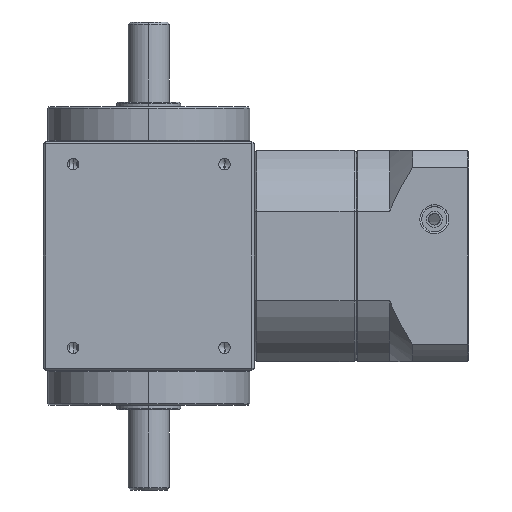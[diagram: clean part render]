
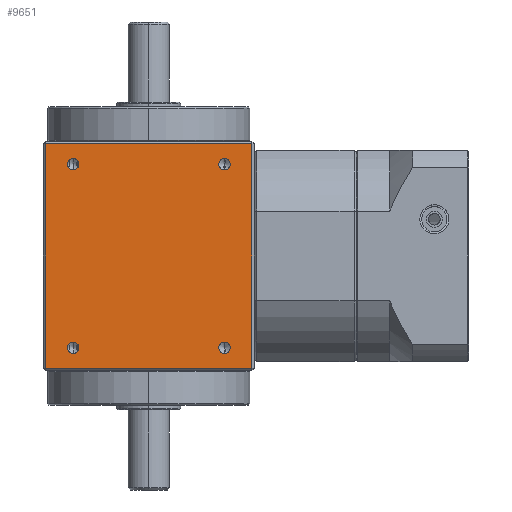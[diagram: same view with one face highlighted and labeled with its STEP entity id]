
A CAD part, left-side view. The second image highlights one B-rep face of the part: STEP entity #9651.
In plain terms, the highlighted planar face has unit normal (-1, 0, 0).
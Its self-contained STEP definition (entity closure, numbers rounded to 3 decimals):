
#675 = AXIS2_PLACEMENT_3D ( 'NONE', #5387, #5388, #5389 ) ;
#682 = AXIS2_PLACEMENT_3D ( 'NONE', #5476, #5477, #5478 ) ;
#690 = AXIS2_PLACEMENT_3D ( 'NONE', #5563, #5564, #5565 ) ;
#692 = AXIS2_PLACEMENT_3D ( 'NONE', #5578, #5579, #5580 ) ;
#725 = AXIS2_PLACEMENT_3D ( 'NONE', #5959, #5960, #5961 ) ;
#726 = AXIS2_PLACEMENT_3D ( 'NONE', #5962, #5963, #5964 ) ;
#727 = AXIS2_PLACEMENT_3D ( 'NONE', #5967, #5968, #5969 ) ;
#728 = AXIS2_PLACEMENT_3D ( 'NONE', #5972, #5973, #5974 ) ;
#1811 = EDGE_LOOP ( 'NONE', ( #8676, #8677 ) ) ;
#1814 = EDGE_LOOP ( 'NONE', ( #8678, #8679 ) ) ;
#1826 = EDGE_LOOP ( 'NONE', ( #8684, #8685, #8686, #8687 ) ) ;
#1858 = EDGE_LOOP ( 'NONE', ( #8682, #8683 ) ) ;
#1894 = EDGE_LOOP ( 'NONE', ( #8680, #8681 ) ) ;
#4160 = CIRCLE ( 'NONE', #675, 2.5 ) ;
#4195 = CIRCLE ( 'NONE', #682, 2.5 ) ;
#4234 = CIRCLE ( 'NONE', #690, 2.5 ) ;
#4250 = CIRCLE ( 'NONE', #692, 2.5 ) ;
#5128 = CARTESIAN_POINT ( 'NONE',  ( -46., -45., 49. ) ) ;
#5129 = CARTESIAN_POINT ( 'NONE',  ( -46., -45., -49. ) ) ;
#5131 = CARTESIAN_POINT ( 'NONE',  ( -46., 45., 49. ) ) ;
#5132 = CARTESIAN_POINT ( 'NONE',  ( -46., 45., -49. ) ) ;
#5165 = CARTESIAN_POINT ( 'NONE',  ( -46., -33., 37.5 ) ) ;
#5167 = CARTESIAN_POINT ( 'NONE',  ( -46., -33., 42.5 ) ) ;
#5202 = CARTESIAN_POINT ( 'NONE',  ( -46., -33., -42.5 ) ) ;
#5203 = CARTESIAN_POINT ( 'NONE',  ( -46., -33., -37.5 ) ) ;
#5221 = CARTESIAN_POINT ( 'NONE',  ( -46., 33., 42.5 ) ) ;
#5222 = CARTESIAN_POINT ( 'NONE',  ( -46., 33., 37.5 ) ) ;
#5236 = CARTESIAN_POINT ( 'NONE',  ( -46., 33., -37.5 ) ) ;
#5237 = CARTESIAN_POINT ( 'NONE',  ( -46., 33., -42.5 ) ) ;
#5387 = CARTESIAN_POINT ( 'NONE',  ( -46., 33., -40. ) ) ;
#5388 = DIRECTION ( 'NONE',  ( -1., 0., 0. ) ) ;
#5389 = DIRECTION ( 'NONE',  ( 0., 0., 1. ) ) ;
#5476 = CARTESIAN_POINT ( 'NONE',  ( -46., 33., 40. ) ) ;
#5477 = DIRECTION ( 'NONE',  ( -1., 0., 0. ) ) ;
#5478 = DIRECTION ( 'NONE',  ( 0., 0., 1. ) ) ;
#5563 = CARTESIAN_POINT ( 'NONE',  ( -46., -33., 40. ) ) ;
#5564 = DIRECTION ( 'NONE',  ( -1., 0., 0. ) ) ;
#5565 = DIRECTION ( 'NONE',  ( 0., 0., 1. ) ) ;
#5578 = CARTESIAN_POINT ( 'NONE',  ( -46., -33., -40. ) ) ;
#5579 = DIRECTION ( 'NONE',  ( -1., 0., 0. ) ) ;
#5580 = DIRECTION ( 'NONE',  ( 0., 0., 1. ) ) ;
#5959 = CARTESIAN_POINT ( 'NONE',  ( -46., 33., -40. ) ) ;
#5960 = DIRECTION ( 'NONE',  ( -1., 0., 0. ) ) ;
#5961 = DIRECTION ( 'NONE',  ( 0., 0., 1. ) ) ;
#5962 = CARTESIAN_POINT ( 'NONE',  ( -46., 33., 40. ) ) ;
#5963 = DIRECTION ( 'NONE',  ( -1., 0., 0. ) ) ;
#5964 = DIRECTION ( 'NONE',  ( 0., 0., 1. ) ) ;
#5965 = CARTESIAN_POINT ( 'NONE',  ( -46., -45., 50. ) ) ;
#5966 = DIRECTION ( 'NONE',  ( 0., 0., 1. ) ) ;
#5967 = CARTESIAN_POINT ( 'NONE',  ( -46., -33., 40. ) ) ;
#5968 = DIRECTION ( 'NONE',  ( -1., 0., 0. ) ) ;
#5969 = DIRECTION ( 'NONE',  ( 0., 0., 1. ) ) ;
#5971 = CARTESIAN_POINT ( 'NONE',  ( -46., 46., 49. ) ) ;
#5972 = CARTESIAN_POINT ( 'NONE',  ( -46., -33., -40. ) ) ;
#5973 = DIRECTION ( 'NONE',  ( -1., 0., 0. ) ) ;
#5974 = DIRECTION ( 'NONE',  ( 0., 0., 1. ) ) ;
#5975 = DIRECTION ( 'NONE',  ( 0., 1., 0. ) ) ;
#5976 = CARTESIAN_POINT ( 'NONE',  ( -46., 45., 50. ) ) ;
#5977 = DIRECTION ( 'NONE',  ( 0., 0., -1. ) ) ;
#5978 = CARTESIAN_POINT ( 'NONE',  ( -46., -46., -49. ) ) ;
#5979 = DIRECTION ( 'NONE',  ( 0., -1., 0. ) ) ;
#6545 = LINE ( 'NONE', #5971, #6560 ) ;
#6552 = CIRCLE ( 'NONE', #725, 2.5 ) ;
#6553 = CIRCLE ( 'NONE', #726, 2.5 ) ;
#6554 = CIRCLE ( 'NONE', #727, 2.5 ) ;
#6555 = CIRCLE ( 'NONE', #728, 2.5 ) ;
#6556 = LINE ( 'NONE', #5965, #6558 ) ;
#6558 = VECTOR ( 'NONE', #5966, 1000. ) ;
#6559 = LINE ( 'NONE', #5976, #6562 ) ;
#6560 = VECTOR ( 'NONE', #5975, 1000. ) ;
#6561 = LINE ( 'NONE', #5978, #6564 ) ;
#6562 = VECTOR ( 'NONE', #5977, 1000. ) ;
#6564 = VECTOR ( 'NONE', #5979, 1000. ) ;
#7058 = FACE_BOUND ( 'NONE', #1894, .T. ) ;
#7060 = FACE_BOUND ( 'NONE', #1811, .T. ) ;
#7063 = FACE_OUTER_BOUND ( 'NONE', #1826, .T. ) ;
#7065 = FACE_BOUND ( 'NONE', #1858, .T. ) ;
#7066 = FACE_BOUND ( 'NONE', #1814, .T. ) ;
#7415 = DIRECTION ( 'NONE',  ( 1., 0., 0. ) ) ;
#7416 = CARTESIAN_POINT ( 'NONE',  ( -46., -46., 50. ) ) ;
#7419 = PLANE ( 'NONE',  #7804 ) ;
#7422 = DIRECTION ( 'NONE',  ( 0., 0., -1. ) ) ;
#7804 = AXIS2_PLACEMENT_3D ( 'NONE', #7416, #7415, #7422 ) ;
#8416 = VERTEX_POINT ( 'NONE', #5128 ) ;
#8417 = VERTEX_POINT ( 'NONE', #5129 ) ;
#8419 = VERTEX_POINT ( 'NONE', #5131 ) ;
#8420 = VERTEX_POINT ( 'NONE', #5132 ) ;
#8453 = VERTEX_POINT ( 'NONE', #5165 ) ;
#8455 = VERTEX_POINT ( 'NONE', #5167 ) ;
#8490 = VERTEX_POINT ( 'NONE', #5202 ) ;
#8491 = VERTEX_POINT ( 'NONE', #5203 ) ;
#8509 = VERTEX_POINT ( 'NONE', #5221 ) ;
#8510 = VERTEX_POINT ( 'NONE', #5222 ) ;
#8524 = VERTEX_POINT ( 'NONE', #5236 ) ;
#8525 = VERTEX_POINT ( 'NONE', #5237 ) ;
#8676 = ORIENTED_EDGE ( 'NONE', *, *, #9009, .F. ) ;
#8677 = ORIENTED_EDGE ( 'NONE', *, *, #8859, .F. ) ;
#8678 = ORIENTED_EDGE ( 'NONE', *, *, #9010, .F. ) ;
#8679 = ORIENTED_EDGE ( 'NONE', *, *, #8880, .F. ) ;
#8680 = ORIENTED_EDGE ( 'NONE', *, *, #9011, .F. ) ;
#8681 = ORIENTED_EDGE ( 'NONE', *, *, #8901, .F. ) ;
#8682 = ORIENTED_EDGE ( 'NONE', *, *, #9012, .F. ) ;
#8683 = ORIENTED_EDGE ( 'NONE', *, *, #8907, .F. ) ;
#8684 = ORIENTED_EDGE ( 'NONE', *, *, #9013, .T. ) ;
#8685 = ORIENTED_EDGE ( 'NONE', *, *, #9014, .T. ) ;
#8686 = ORIENTED_EDGE ( 'NONE', *, *, #9015, .T. ) ;
#8687 = ORIENTED_EDGE ( 'NONE', *, *, #9016, .T. ) ;
#8859 = EDGE_CURVE ( 'NONE', #8525, #8524, #4160, .T. ) ;
#8880 = EDGE_CURVE ( 'NONE', #8510, #8509, #4195, .T. ) ;
#8901 = EDGE_CURVE ( 'NONE', #8453, #8455, #4234, .T. ) ;
#8907 = EDGE_CURVE ( 'NONE', #8490, #8491, #4250, .T. ) ;
#9009 = EDGE_CURVE ( 'NONE', #8524, #8525, #6552, .T. ) ;
#9010 = EDGE_CURVE ( 'NONE', #8509, #8510, #6553, .T. ) ;
#9011 = EDGE_CURVE ( 'NONE', #8455, #8453, #6554, .T. ) ;
#9012 = EDGE_CURVE ( 'NONE', #8491, #8490, #6555, .T. ) ;
#9013 = EDGE_CURVE ( 'NONE', #8417, #8416, #6556, .T. ) ;
#9014 = EDGE_CURVE ( 'NONE', #8416, #8419, #6545, .T. ) ;
#9015 = EDGE_CURVE ( 'NONE', #8419, #8420, #6559, .T. ) ;
#9016 = EDGE_CURVE ( 'NONE', #8420, #8417, #6561, .T. ) ;
#9651 = ADVANCED_FACE ( 'NONE', ( #7060, #7066, #7058, #7065, #7063 ), #7419, .F. ) ;
